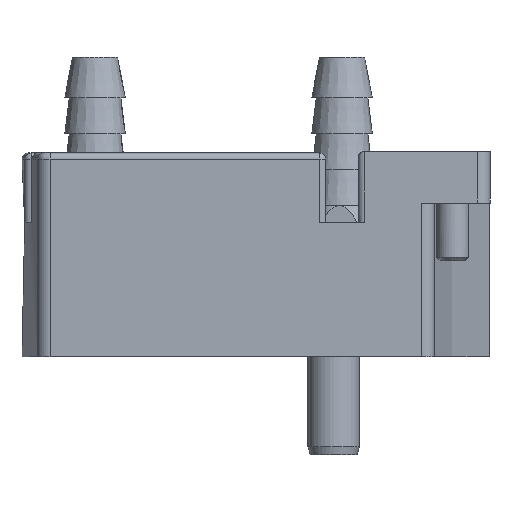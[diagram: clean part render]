
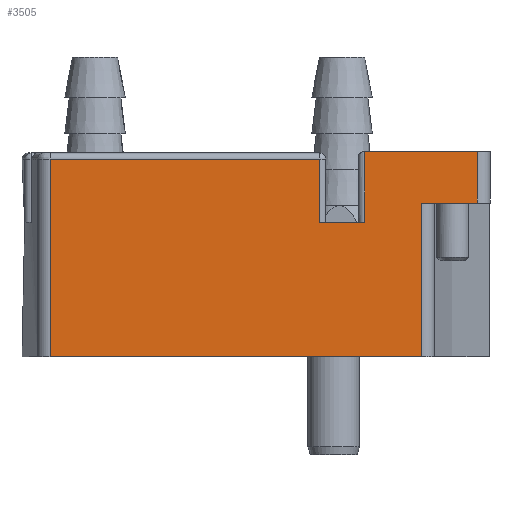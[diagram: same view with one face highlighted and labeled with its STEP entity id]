
A CAD part, left-side view. The second image highlights one B-rep face of the part: STEP entity #3505.
In plain terms, the highlighted planar face has unit normal (-1, 0, 0).
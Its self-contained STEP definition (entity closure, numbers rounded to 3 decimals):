
#147=LINE('',#5450,#320);
#149=LINE('',#5460,#322);
#164=LINE('',#5520,#337);
#170=LINE('',#5550,#343);
#179=LINE('',#5574,#352);
#183=LINE('',#5585,#356);
#184=LINE('',#5587,#357);
#185=LINE('',#5589,#358);
#186=LINE('',#5591,#359);
#187=LINE('',#5592,#360);
#320=VECTOR('',#4329,10.);
#322=VECTOR('',#4339,10.);
#337=VECTOR('',#4392,10.);
#343=VECTOR('',#4428,10.);
#352=VECTOR('',#4449,10.);
#356=VECTOR('',#4459,10.);
#357=VECTOR('',#4460,10.);
#358=VECTOR('',#4461,10.);
#359=VECTOR('',#4462,10.);
#360=VECTOR('',#4463,10.);
#483=PLANE('',#3814);
#795=FACE_OUTER_BOUND('',#1055,.T.);
#1055=EDGE_LOOP('',(#2520,#2521,#2522,#2523,#2524,#2525,#2526,#2527,#2528,
#2529));
#1564=VERTEX_POINT('',#5447);
#1565=VERTEX_POINT('',#5449);
#1567=VERTEX_POINT('',#5454);
#1569=VERTEX_POINT('',#5458);
#1594=VERTEX_POINT('',#5517);
#1595=VERTEX_POINT('',#5519);
#1613=VERTEX_POINT('',#5572);
#1618=VERTEX_POINT('',#5586);
#1619=VERTEX_POINT('',#5588);
#1620=VERTEX_POINT('',#5590);
#1891=EDGE_CURVE('',#1565,#1564,#147,.T.);
#1896=EDGE_CURVE('',#1567,#1569,#149,.T.);
#1924=EDGE_CURVE('',#1595,#1594,#164,.T.);
#1940=EDGE_CURVE('',#1569,#1595,#170,.T.);
#1951=EDGE_CURVE('',#1613,#1594,#179,.T.);
#1957=EDGE_CURVE('',#1567,#1564,#183,.T.);
#1958=EDGE_CURVE('',#1613,#1618,#184,.T.);
#1959=EDGE_CURVE('',#1619,#1618,#185,.T.);
#1960=EDGE_CURVE('',#1620,#1619,#186,.T.);
#1961=EDGE_CURVE('',#1565,#1620,#187,.T.);
#2520=ORIENTED_EDGE('',*,*,#1891,.T.);
#2521=ORIENTED_EDGE('',*,*,#1957,.F.);
#2522=ORIENTED_EDGE('',*,*,#1896,.T.);
#2523=ORIENTED_EDGE('',*,*,#1940,.T.);
#2524=ORIENTED_EDGE('',*,*,#1924,.T.);
#2525=ORIENTED_EDGE('',*,*,#1951,.F.);
#2526=ORIENTED_EDGE('',*,*,#1958,.T.);
#2527=ORIENTED_EDGE('',*,*,#1959,.F.);
#2528=ORIENTED_EDGE('',*,*,#1960,.F.);
#2529=ORIENTED_EDGE('',*,*,#1961,.F.);
#3505=ADVANCED_FACE('',(#795),#483,.F.);
#3814=AXIS2_PLACEMENT_3D('',#5584,#4457,#4458);
#4329=DIRECTION('',(0.,0.,-1.));
#4339=DIRECTION('',(0.,0.,1.));
#4392=DIRECTION('',(0.,0.,1.));
#4428=DIRECTION('',(0.,-1.,0.));
#4449=DIRECTION('',(0.,-1.,0.));
#4457=DIRECTION('center_axis',(1.,0.,0.));
#4458=DIRECTION('ref_axis',(0.,0.,
-1.));
#4459=DIRECTION('',(0.,1.,0.));
#4460=DIRECTION('',(0.,0.,-1.));
#4461=DIRECTION('',(0.,-1.,0.));
#4462=DIRECTION('',(0.,0.,-1.));
#4463=DIRECTION('',(0.,-1.,0.));
#5447=CARTESIAN_POINT('',(-13.,59.298,0.));
#5449=CARTESIAN_POINT('',(-13.,59.298,15.35));
#5450=CARTESIAN_POINT('',(-13.,59.298,0.));
#5454=CARTESIAN_POINT('',(-13.,30.419,0.));
#5458=CARTESIAN_POINT('',(-13.,30.419,11.95));
#5460=CARTESIAN_POINT('',(-13.,30.419,11.95));
#5517=CARTESIAN_POINT('',(-13.,26.1,15.95));
#5519=CARTESIAN_POINT('',(-13.,26.1,11.95));
#5520=CARTESIAN_POINT('',(-13.,26.1,0.));
#5550=CARTESIAN_POINT('',(-13.,30.055,11.95));
#5572=CARTESIAN_POINT('',(-13.,34.85,15.95));
#5574=CARTESIAN_POINT('',(-13.,25.1,15.95));
#5584=CARTESIAN_POINT('Origin',(-13.,60.11,0.));
#5585=CARTESIAN_POINT('',(-13.,25.1,0.));
#5586=CARTESIAN_POINT('',(-13.,34.85,10.45));
#5587=CARTESIAN_POINT('',(-13.,34.85,10.918));
#5588=CARTESIAN_POINT('',(-13.,38.35,10.45));
#5589=CARTESIAN_POINT('',(-13.,48.355,10.45));
#5590=CARTESIAN_POINT('',(-13.,38.35,15.35));
#5591=CARTESIAN_POINT('',(-13.,38.35,13.15));
#5592=CARTESIAN_POINT('',(-13.,55.4,15.35));
